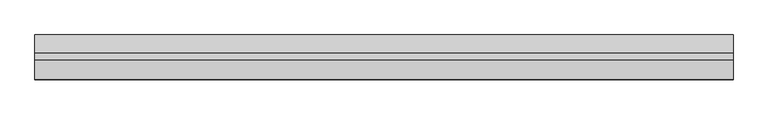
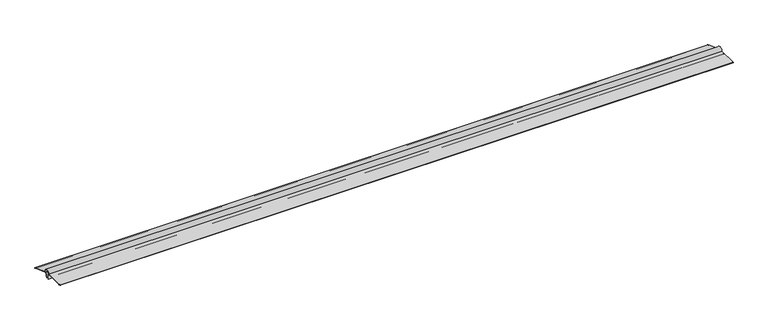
"""IFC4 building model written with IfcOpenShell, lengths in millimetres: proxy geometry, ATELIERS 3S_PARISIENNE 1000_VENTILATED CYLINDRICAL ROOF RIDGE : ATELIERS 3S_PARISIENNE 1000_VENTILATED CYLINDRICAL ROOF RIDGE."""

from ifc_helpers import new_model, si_unit, point, frame, frame_2d, origin, origin_2d, place, context, project, spatial, polyline, circle_curve, trimmed, segment, composite_curve, outline, extrude, source, transform, mapped, element, save


def generic_models_148cd89d(model_context):
    return source(origin(), model_context, "Body", "SweptSolid", [
        extrude(outline(polyline([(-21.2734211, -45.0), (-22.2734211, -45.0), (-22.2734211, -1.0), (-61.2734211, -1.0), (-61.2734211, 0.0), (-21.2734211, 0.0), (-21.2734211, -45.0)])), frame((0.0, 0.0, 0.0), z_axis=(1.0, 0.0, 0.0), x_axis=(0.0, 1.0, 0.0)), (0.0, 0.0, 1.0), 5661.0),
        extrude(outline(polyline([(4.5995703, -49.5621065), (19.9904768, -7.2759385), (57.5781816, -20.9567443), (57.2361615, -21.8964369), (20.5881493, -8.5576513), (5.539263, -49.9041266), (4.5995703, -49.5621065)])), frame((0.0, 0.0, 0.0), z_axis=(1.0, 0.0, 0.0), x_axis=(0.0, 1.0, 0.0)), (0.0, 0.0, 1.0), 5661.0),
        extrude(outline(composite_curve([segment(polyline([(-185.823673, 1.0), (-24.979992, 1.0)]), True, "CONTINUOUS"), segment(trimmed(circle_curve(origin_2d(), 25.0), [point((-24.979992, 1.0))], [point((23.8155343, -7.6039678))], False, "CARTESIAN"), True, "CONTINUOUS"), segment(polyline([(23.8155343, -7.6039678), (174.9591544, -62.6157467)]), True, "CONTINUOUS"), segment(trimmed(circle_curve(frame_2d((174.6171343, -63.5554393)), 1.0), [point((174.9591544, -62.6157467))], [point((174.2751142, -64.4951319))], False, "CARTESIAN"), True, "CONTINUOUS"), segment(polyline([(174.2751142, -64.4951319), (162.0591101, -60.04887)]), True, "CONTINUOUS"), segment(trimmed(circle_curve(frame_2d((162.2301202, -59.5790237)), 0.5), [point((162.0591101, -60.04887))], [point((162.4011302, -59.1091774))], False, "CARTESIAN"), True, "CONTINUOUS"), segment(polyline([(162.4011302, -59.1091774), (22.5526229, -8.2084834)]), True, "CONTINUOUS"), segment(trimmed(circle_curve(origin_2d(), 24.0), [point((22.5526229, -8.2084834))], [point((-24.0, 0.0))], True, "CARTESIAN"), True, "CONTINUOUS"), segment(polyline([(-24.0, 0.0), (-172.823673, 0.0)]), True, "CONTINUOUS"), segment(trimmed(circle_curve(frame_2d((-172.823673, -0.5)), 0.5), [point((-172.823673, 0.0))], [point((-172.823673, -1.0))], False, "CARTESIAN"), True, "CONTINUOUS"), segment(polyline([(-172.823673, -1.0), (-185.823673, -1.0)]), True, "CONTINUOUS"), segment(trimmed(circle_curve(frame_2d((-185.823673, 0.0)), 1.0), [point((-185.823673, -1.0))], [point((-185.823673, 1.0))], False, "CARTESIAN"), True, "CONTINUOUS")], self_intersect=False)), frame((0.0, 0.0, 0.0), z_axis=(1.0, 0.0, 0.0), x_axis=(0.0, 1.0, 0.0)), (0.0, 0.0, 1.0), 5661.0),
    ])


if __name__ == "__main__":
    model = new_model("IFC4")
    model_context = context("Model", 3, world=origin())
    ifc_project = project(units=[si_unit("LENGTHUNIT", "METRE", prefix="MILLI")], contexts=[model_context])
    site = spatial("IfcSite", under=ifc_project)
    building = spatial("IfcBuilding", under=site)
    placement = place(None, origin())
    generic_models_shape = generic_models_148cd89d(model_context)
    element("IfcBuildingElementProxy", 1, Name="ATELIERS 3S_PARISIENNE 1000_VENTILATED CYLINDRICAL ROOF RIDGE : ATELIERS 3S_PARISIENNE 1000_VENTILATED CYLINDRICAL ROOF RIDGE", ObjectType="ATELIERS 3S_PARISIENNE 1000_VENTILATED CYLINDRICAL ROOF RIDGE : ATELIERS 3S_PARISIENNE 1000_VENTILATED CYLINDRICAL ROOF RIDGE", at=placement, inside=building, context=model_context, shape_type="MappedRepresentation", body=[
        mapped(generic_models_shape, transform((0.0, 0.0, 0.0), x_axis=(1.0, 0.0, 0.0), y_axis=(0.0, 1.0, 0.0), z_axis=(0.0, 0.0, 1.0))),
    ])
    save(model, "model.ifc")
